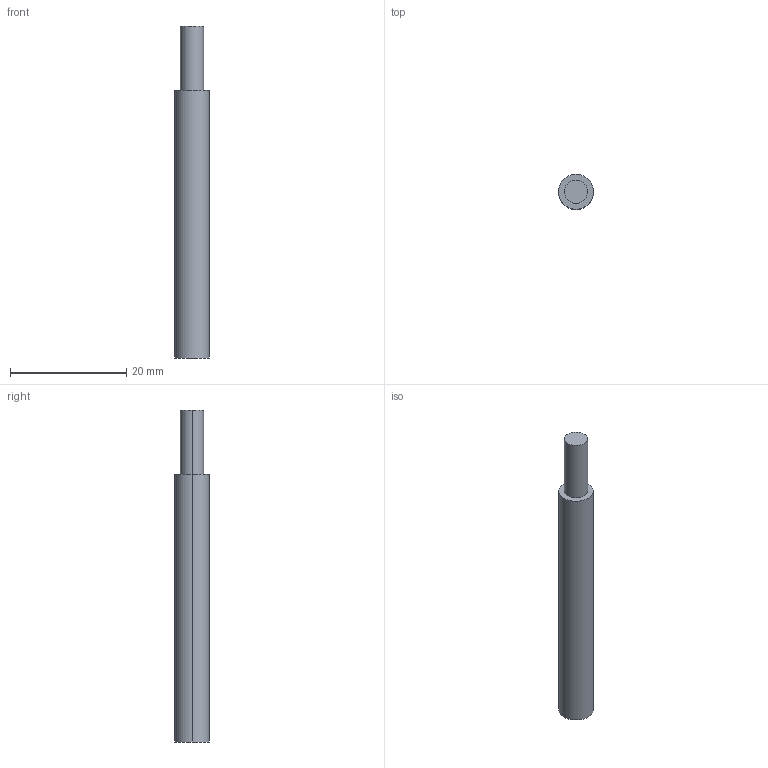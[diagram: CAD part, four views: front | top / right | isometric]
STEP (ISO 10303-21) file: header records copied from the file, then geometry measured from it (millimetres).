
FILE_DESCRIPTION(('STEP AP214'),'1');
FILE_NAME('cctmp_422E77B6-134B-43BB-822A-D12EEB808D92_2020_09_30_16_00_32_0126..stp','2020-09-30T14:00:32',('Meusburger Georg GmbH & Co KG'),('CADClick - www.CADClick.com'),'Spatial InterOp 3D',' ','unknown authorization');
FILE_SCHEMA(('AUTOMOTIVE_DESIGN { 1 0 10303 214 1 1 1 1 }'));
Length unit declared in the file: millimetre
Products named in the file (1): WZF13242P_4
Bounding box: 6 x 6 x 57 mm (x, y, z)
Volume: 1438.7 mm3; surface area: 1062 mm2
Topology: 1 solids, 1 shells, 10 faces, 18 edges, 12 vertices
Faces by surface type: cylinder 6, plane 4
Entity records: 358 total; most frequent: DIRECTION 52, CARTESIAN_POINT 41, ORIENTED_EDGE 36, AXIS2_PLACEMENT_3D 23, EDGE_CURVE 18, EDGE_LOOP 12, VERTEX_POINT 12, CIRCLE 12
